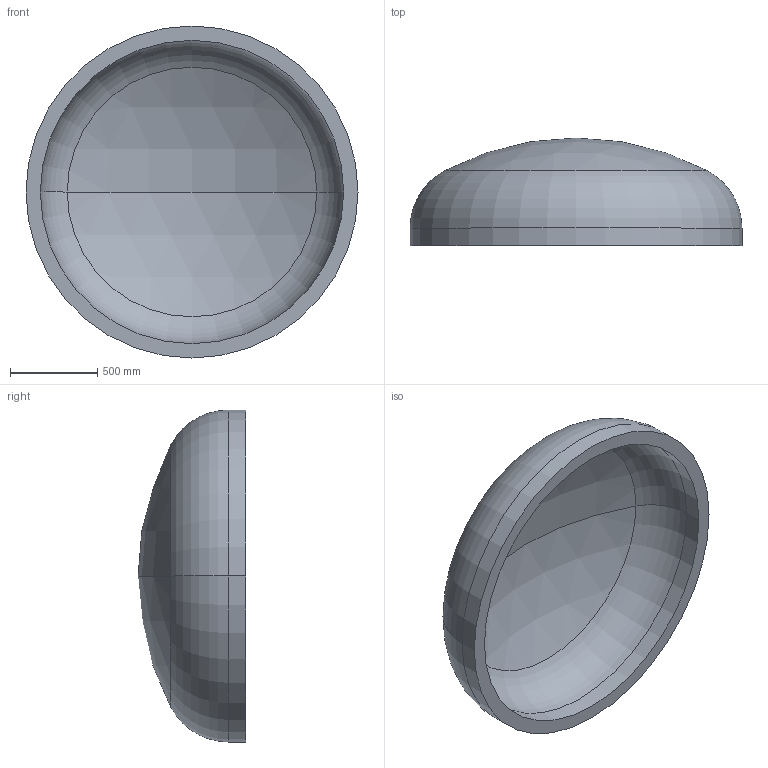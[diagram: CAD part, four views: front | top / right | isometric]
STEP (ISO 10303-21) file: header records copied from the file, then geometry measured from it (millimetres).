
FILE_DESCRIPTION (( 'STEP AP203' ), '1' );
FILE_NAME ('DIN 28013 Korbbogenform_-_Boden DIN 28013 - 1900 x 100 - I - s=82.step', '2016-07-01T13:21:07', ( '' ), ( '' ), 'SwSTEP 2.0', 'SolidWorks 2013', '' );
FILE_SCHEMA (( 'CONFIG_CONTROL_DESIGN' ));
Length unit declared in the file: millimetre
Products named in the file (1): DIN 28013 Korbbogenform_-_Boden DIN 28013 - 1900 x 100 - I - s=82
Bounding box: 1900 x 616.27 x 1900 mm (x, y, z)
Volume: 350815911.4 mm3; surface area: 9038902 mm2
Topology: 1 solids, 1 shells, 13 faces, 24 edges, 14 vertices
Faces by surface type: torus 4, cylinder 4, sphere 4, plane 1
Entity records: 407 total; most frequent: DIRECTION 72, CARTESIAN_POINT 52, ORIENTED_EDGE 48, AXIS2_PLACEMENT_3D 34, EDGE_CURVE 24, CIRCLE 20, EDGE_LOOP 14, VERTEX_POINT 14
